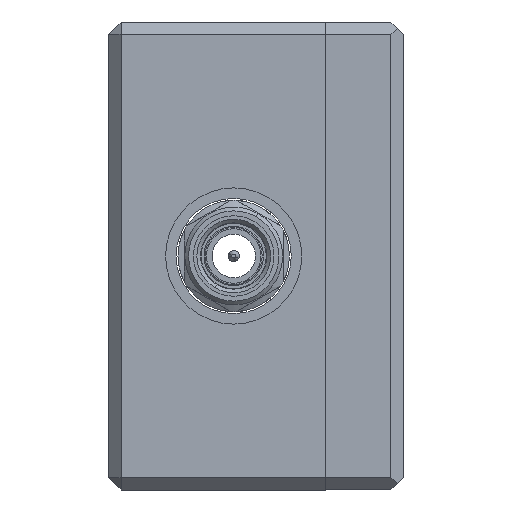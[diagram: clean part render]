
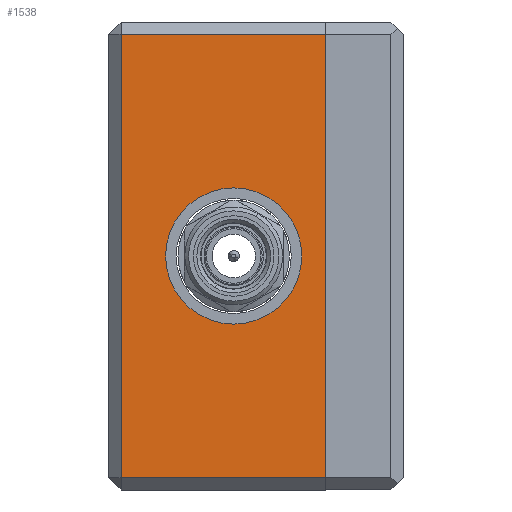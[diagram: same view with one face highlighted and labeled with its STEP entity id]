
A CAD part, left-side view. The second image highlights one B-rep face of the part: STEP entity #1538.
In plain terms, the highlighted planar face has unit normal (-1, 0, 0).
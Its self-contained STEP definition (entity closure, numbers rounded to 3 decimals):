
#270 = ORIENTED_EDGE ( 'NONE', *, *, #7161, .T. ) ;
#332 = DIRECTION ( 'NONE',  ( 0., 1., 0. ) ) ;
#338 = CARTESIAN_POINT ( 'NONE',  ( -24.5, 17.5, 17.9 ) ) ;
#542 = DIRECTION ( 'NONE',  ( 1., 0., 0. ) ) ;
#1057 = ORIENTED_EDGE ( 'NONE', *, *, #5505, .T. ) ;
#1538 = ADVANCED_FACE ( 'NONE', ( #4677, #4576 ), #14585, .F. ) ;
#1878 = CARTESIAN_POINT ( 'NONE',  ( -24.5, 17.5, -18.9 ) ) ;
#1971 = CARTESIAN_POINT ( 'NONE',  ( -24.5, 16.5, 17.9 ) ) ;
#2045 = EDGE_CURVE ( 'NONE', #12948, #13496, #16385, .T. ) ;
#2442 = LINE ( 'NONE', #16860, #10102 ) ;
#2794 = CIRCLE ( 'NONE', #9684, 5.5 ) ;
#2895 = EDGE_LOOP ( 'NONE', ( #5445, #5311 ) ) ;
#3083 = EDGE_LOOP ( 'NONE', ( #19772, #270, #19672, #1057 ) ) ;
#3094 = VECTOR ( 'NONE', #332, 1000. ) ;
#4005 = DIRECTION ( 'NONE',  ( 0., 0., -1. ) ) ;
#4576 = FACE_OUTER_BOUND ( 'NONE', #3083, .T. ) ;
#4677 = FACE_BOUND ( 'NONE', #2895, .T. ) ;
#5311 = ORIENTED_EDGE ( 'NONE', *, *, #2045, .T. ) ;
#5445 = ORIENTED_EDGE ( 'NONE', *, *, #17708, .T. ) ;
#5505 = EDGE_CURVE ( 'NONE', #13938, #14901, #18104, .T. ) ;
#5675 = CARTESIAN_POINT ( 'NONE',  ( -24.5, 0., 17.9 ) ) ;
#6467 = LINE ( 'NONE', #11681, #17864 ) ;
#7161 = EDGE_CURVE ( 'NONE', #15721, #13213, #15984, .T. ) ;
#9133 = CARTESIAN_POINT ( 'NONE',  ( -24.5, 7.4, 5.5 ) ) ;
#9684 = AXIS2_PLACEMENT_3D ( 'NONE', #9954, #542, #11477 ) ;
#9954 = CARTESIAN_POINT ( 'NONE',  ( -24.5, 7.4, 0. ) ) ;
#10102 = VECTOR ( 'NONE', #18370, 1000. ) ;
#11477 = DIRECTION ( 'NONE',  ( 0., 0., -1. ) ) ;
#11556 = AXIS2_PLACEMENT_3D ( 'NONE', #13254, #13142, #13116 ) ;
#11681 = CARTESIAN_POINT ( 'NONE',  ( -24.5, 16.5, -18.9 ) ) ;
#12948 = VERTEX_POINT ( 'NONE', #9133 ) ;
#13116 = DIRECTION ( 'NONE',  ( 0., 0., -1. ) ) ;
#13142 = DIRECTION ( 'NONE',  ( 1., 0., 0. ) ) ;
#13213 = VERTEX_POINT ( 'NONE', #1971 ) ;
#13238 = CARTESIAN_POINT ( 'NONE',  ( -24.5, 7.4, -5.5 ) ) ;
#13254 = CARTESIAN_POINT ( 'NONE',  ( -24.5, 7.4, 0. ) ) ;
#13383 = DIRECTION ( 'NONE',  ( 1., 0., 0. ) ) ;
#13407 = AXIS2_PLACEMENT_3D ( 'NONE', #1878, #13383, #4005 ) ;
#13496 = VERTEX_POINT ( 'NONE', #13238 ) ;
#13938 = VERTEX_POINT ( 'NONE', #18810 ) ;
#14395 = DIRECTION ( 'NONE',  ( 0., -1., 0. ) ) ;
#14585 = PLANE ( 'NONE',  #13407 ) ;
#14618 = CARTESIAN_POINT ( 'NONE',  ( -24.5, 17.5, -17.9 ) ) ;
#14901 = VERTEX_POINT ( 'NONE', #16208 ) ;
#15721 = VERTEX_POINT ( 'NONE', #5675 ) ;
#15984 = LINE ( 'NONE', #338, #3094 ) ;
#16208 = CARTESIAN_POINT ( 'NONE',  ( -24.5, 0., -17.9 ) ) ;
#16385 = CIRCLE ( 'NONE', #11556, 5.5 ) ;
#16860 = CARTESIAN_POINT ( 'NONE',  ( -24.5, 0., -18.9 ) ) ;
#17683 = DIRECTION ( 'NONE',  ( 0., 0., -1. ) ) ;
#17708 = EDGE_CURVE ( 'NONE', #13496, #12948, #2794, .T. ) ;
#17864 = VECTOR ( 'NONE', #17683, 1000. ) ;
#18104 = LINE ( 'NONE', #14618, #19319 ) ;
#18370 = DIRECTION ( 'NONE',  ( 0., 0., 1. ) ) ;
#18621 = EDGE_CURVE ( 'NONE', #13213, #13938, #6467, .T. ) ;
#18776 = EDGE_CURVE ( 'NONE', #14901, #15721, #2442, .T. ) ;
#18810 = CARTESIAN_POINT ( 'NONE',  ( -24.5, 16.5, -17.9 ) ) ;
#19319 = VECTOR ( 'NONE', #14395, 1000. ) ;
#19672 = ORIENTED_EDGE ( 'NONE', *, *, #18621, .T. ) ;
#19772 = ORIENTED_EDGE ( 'NONE', *, *, #18776, .T. ) ;
